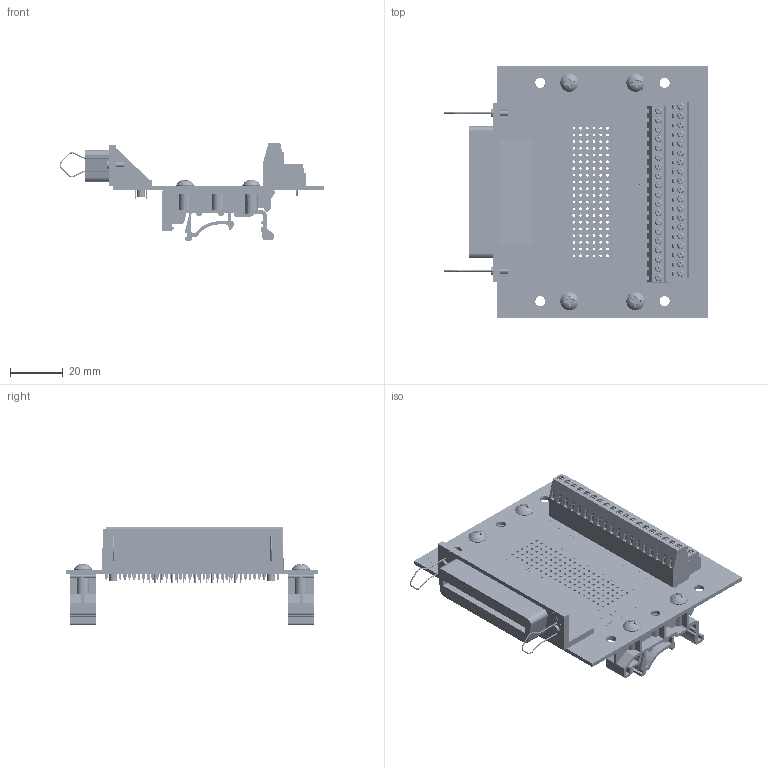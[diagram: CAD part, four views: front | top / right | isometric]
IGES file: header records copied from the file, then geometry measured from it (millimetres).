
Start section: SolidWorks IGES file using analytic representation for surfaces
Global section: file name: C:\Users\Jonny\Documents\Winford Engineering Jobs\BRKDC\BRKDC36FV1R\brkdc36fv1-r-din_rev_a.igs; native system: SolidWorks 2017; preprocessor: SolidWorks 2017; author: Jonny; date: 180728.155507; units: inch
Bounding box: 99.97 x 95.25 x 36.77 mm (x, y, z)
Surface area: 57694 mm2 (no closed solid volume)
Topology: 0 solids, 0 shells, 11432 faces, 80903 edges, 80903 vertices
Faces by surface type: bspline 8109, revolution 3323
